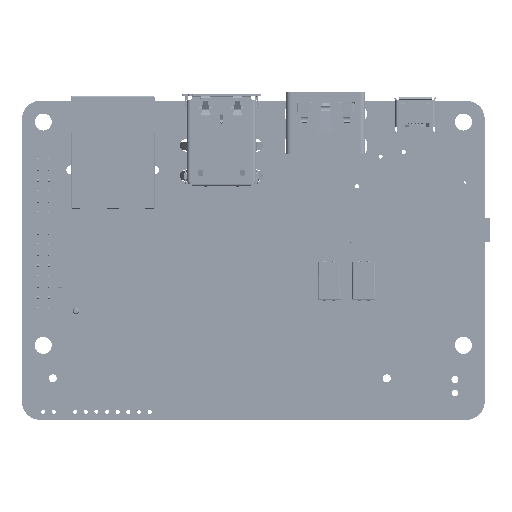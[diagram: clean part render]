
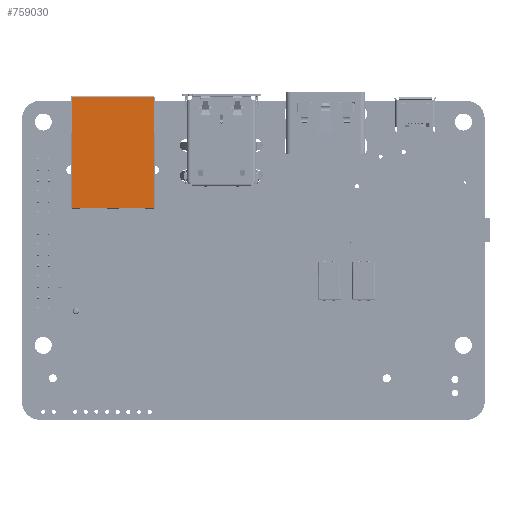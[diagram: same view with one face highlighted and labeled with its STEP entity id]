
A CAD part, top view. The second image highlights one B-rep face of the part: STEP entity #759030.
In plain terms, the highlighted planar face has unit normal (0, 0, 1).
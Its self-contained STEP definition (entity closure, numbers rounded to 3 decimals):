
#752021=DIRECTION('',(1.,0.,0.));
#752022=VECTOR('',#752021,15.38);
#752023=CARTESIAN_POINT('',(-89.666,53.609,
13.363));
#752024=LINE('',#752023,#752022);
#752035=DIRECTION('',(0.,-1.,0.));
#752036=VECTOR('',#752035,0.01);
#752037=CARTESIAN_POINT('',(-89.666,32.839,
13.363));
#752038=LINE('',#752037,#752036);
#752042=DIRECTION('',(0.,-1.,0.));
#752043=VECTOR('',#752042,1.);
#752044=CARTESIAN_POINT('',(-89.666,47.779,
13.363));
#752045=LINE('',#752044,#752043);
#752049=DIRECTION('',(1.,0.,0.));
#752050=VECTOR('',#752049,0.01);
#752051=CARTESIAN_POINT('',(-89.676,47.779,
13.363));
#752052=LINE('',#752051,#752050);
#752056=DIRECTION('',(0.,-1.,0.));
#752057=VECTOR('',#752056,5.83);
#752058=CARTESIAN_POINT('',(-89.676,53.609,
13.363));
#752059=LINE('',#752058,#752057);
#752063=DIRECTION('',(-1.,0.,0.));
#752064=VECTOR('',#752063,0.01);
#752065=CARTESIAN_POINT('',(-89.666,53.609,
13.363));
#752066=LINE('',#752065,#752064);
#752070=DIRECTION('',(-1.,0.,0.));
#752071=VECTOR('',#752070,0.01);
#752072=CARTESIAN_POINT('',(-74.276,53.609,
13.363));
#752073=LINE('',#752072,#752071);
#752077=DIRECTION('',(0.,1.,0.));
#752078=VECTOR('',#752077,5.83);
#752079=CARTESIAN_POINT('',(-74.276,47.779,
13.363));
#752080=LINE('',#752079,#752078);
#752084=DIRECTION('',(1.,0.,0.));
#752085=VECTOR('',#752084,0.01);
#752086=CARTESIAN_POINT('',(-74.286,47.779,
13.363));
#752087=LINE('',#752086,#752085);
#752091=DIRECTION('',(0.,1.,0.));
#752092=VECTOR('',#752091,1.);
#752093=CARTESIAN_POINT('',(-74.286,46.779,
13.363));
#752094=LINE('',#752093,#752092);
#752098=DIRECTION('',(0.,1.,0.));
#752099=VECTOR('',#752098,0.01);
#752100=CARTESIAN_POINT('',(-74.286,32.829,
13.363));
#752101=LINE('',#752100,#752099);
#752105=DIRECTION('',(1.,0.,0.));
#752106=VECTOR('',#752105,5.);
#752107=CARTESIAN_POINT('',(-80.826,32.829,
13.363));
#752108=LINE('',#752107,#752106);
#752112=DIRECTION('',(1.,0.,0.));
#752113=VECTOR('',#752112,5.);
#752114=CARTESIAN_POINT('',(-88.126,32.829,
13.363));
#752115=LINE('',#752114,#752113);
#752119=DIRECTION('',(-1.,0.,0.));
#752120=VECTOR('',#752119,1.54);
#752121=CARTESIAN_POINT('',(-88.126,32.829,
13.363));
#752122=LINE('',#752121,#752120);
#752335=DIRECTION('',(-1.,0.,0.));
#752336=VECTOR('',#752335,2.3);
#752337=CARTESIAN_POINT('',(-80.826,32.829,
13.363));
#752338=LINE('',#752337,#752336);
#753077=DIRECTION('',(-1.,0.,0.));
#753078=VECTOR('',#753077,1.54);
#753079=CARTESIAN_POINT('',(-74.286,32.829,
13.363));
#753080=LINE('',#753079,#753078);
#753107=DIRECTION('',(0.,-1.,0.));
#753108=VECTOR('',#753107,13.94);
#753109=CARTESIAN_POINT('',(-74.286,46.779,
13.363));
#753110=LINE('',#753109,#753108);
#753435=DIRECTION('',(0.,1.,0.));
#753436=VECTOR('',#753435,13.94);
#753437=CARTESIAN_POINT('',(-89.666,32.839,
13.363));
#753438=LINE('',#753437,#753436);
#754289=CARTESIAN_POINT('',(-83.126,32.829,
13.363));
#754290=VERTEX_POINT('',#754289);
#754392=CARTESIAN_POINT('',(-80.826,32.829,
13.363));
#754393=VERTEX_POINT('',#754392);
#754408=CARTESIAN_POINT('',(-74.286,32.839,
13.363));
#754410=VERTEX_POINT('',#754408);
#754416=CARTESIAN_POINT('',(-74.286,47.779,
13.363));
#754418=VERTEX_POINT('',#754416);
#754424=CARTESIAN_POINT('',(-74.286,53.609,
13.363));
#754426=VERTEX_POINT('',#754424);
#754430=CARTESIAN_POINT('',(-89.666,53.609,
13.363));
#754431=VERTEX_POINT('',#754430);
#754436=CARTESIAN_POINT('',(-89.666,47.779,
13.363));
#754437=CARTESIAN_POINT('',(-89.666,46.779,
13.363));
#754438=VERTEX_POINT('',#754436);
#754439=VERTEX_POINT('',#754437);
#754446=CARTESIAN_POINT('',(-89.666,32.839,
13.363));
#754447=VERTEX_POINT('',#754446);
#754456=CARTESIAN_POINT('',(-89.666,32.829,
13.363));
#754457=VERTEX_POINT('',#754456);
#754469=CARTESIAN_POINT('',(-75.826,32.829,
13.363));
#754471=VERTEX_POINT('',#754469);
#754482=CARTESIAN_POINT('',(-74.286,46.779,
13.363));
#754484=VERTEX_POINT('',#754482);
#754550=CARTESIAN_POINT('',(-88.126,32.829,
13.363));
#754552=VERTEX_POINT('',#754550);
#754554=CARTESIAN_POINT('',(-74.286,32.829,
13.363));
#754556=VERTEX_POINT('',#754554);
#754990=CARTESIAN_POINT('',(-74.276,47.779,
13.363));
#754991=VERTEX_POINT('',#754990);
#754994=CARTESIAN_POINT('',(-74.276,53.609,
13.363));
#754996=VERTEX_POINT('',#754994);
#755010=CARTESIAN_POINT('',(-89.676,53.609,
13.363));
#755011=VERTEX_POINT('',#755010);
#755014=CARTESIAN_POINT('',(-89.676,47.779,
13.363));
#755015=VERTEX_POINT('',#755014);
#758988=CARTESIAN_POINT('',(-89.676,32.619,
13.363));
#758989=DIRECTION('',(0.,0.,-1.));
#758990=DIRECTION('',(0.,-1.,0.));
#758991=AXIS2_PLACEMENT_3D('',#758988,#758989,#758990);
#758992=PLANE('',#758991);
#758994=ORIENTED_EDGE('',*,*,#758993,.T.);
#758996=ORIENTED_EDGE('',*,*,#758995,.F.);
#758998=ORIENTED_EDGE('',*,*,#758997,.T.);
#759000=ORIENTED_EDGE('',*,*,#758999,.F.);
#759002=ORIENTED_EDGE('',*,*,#759001,.F.);
#759004=ORIENTED_EDGE('',*,*,#759003,.F.);
#759006=ORIENTED_EDGE('',*,*,#759005,.F.);
#759007=ORIENTED_EDGE('',*,*,#758972,.T.);
#759009=ORIENTED_EDGE('',*,*,#759008,.F.);
#759011=ORIENTED_EDGE('',*,*,#759010,.F.);
#759013=ORIENTED_EDGE('',*,*,#759012,.F.);
#759015=ORIENTED_EDGE('',*,*,#759014,.F.);
#759017=ORIENTED_EDGE('',*,*,#759016,.T.);
#759019=ORIENTED_EDGE('',*,*,#759018,.F.);
#759021=ORIENTED_EDGE('',*,*,#759020,.T.);
#759023=ORIENTED_EDGE('',*,*,#759022,.F.);
#759025=ORIENTED_EDGE('',*,*,#759024,.T.);
#759027=ORIENTED_EDGE('',*,*,#759026,.F.);
#759028=EDGE_LOOP('',(#758994,#758996,#758998,#759000,#759002,#759004,#759006,
#759007,#759009,#759011,#759013,#759015,#759017,#759019,#759021,#759023,#759025,
#759027));
#759029=FACE_OUTER_BOUND('',#759028,.F.);
#758972=EDGE_CURVE('',#754431,#754426,#752024,.T.);
#758993=EDGE_CURVE('',#754552,#754457,#752122,.T.);
#758995=EDGE_CURVE('',#754447,#754457,#752038,.T.);
#758997=EDGE_CURVE('',#754447,#754439,#753438,.T.);
#758999=EDGE_CURVE('',#754438,#754439,#752045,.T.);
#759001=EDGE_CURVE('',#755015,#754438,#752052,.T.);
#759003=EDGE_CURVE('',#755011,#755015,#752059,.T.);
#759005=EDGE_CURVE('',#754431,#755011,#752066,.T.);
#759008=EDGE_CURVE('',#754996,#754426,#752073,.T.);
#759010=EDGE_CURVE('',#754991,#754996,#752080,.T.);
#759012=EDGE_CURVE('',#754418,#754991,#752087,.T.);
#759014=EDGE_CURVE('',#754484,#754418,#752094,.T.);
#759016=EDGE_CURVE('',#754484,#754410,#753110,.T.);
#759018=EDGE_CURVE('',#754556,#754410,#752101,.T.);
#759020=EDGE_CURVE('',#754556,#754471,#753080,.T.);
#759022=EDGE_CURVE('',#754393,#754471,#752108,.T.);
#759024=EDGE_CURVE('',#754393,#754290,#752338,.T.);
#759026=EDGE_CURVE('',#754552,#754290,#752115,.T.);
#759030=ADVANCED_FACE('',(#759029),#758992,.F.);
